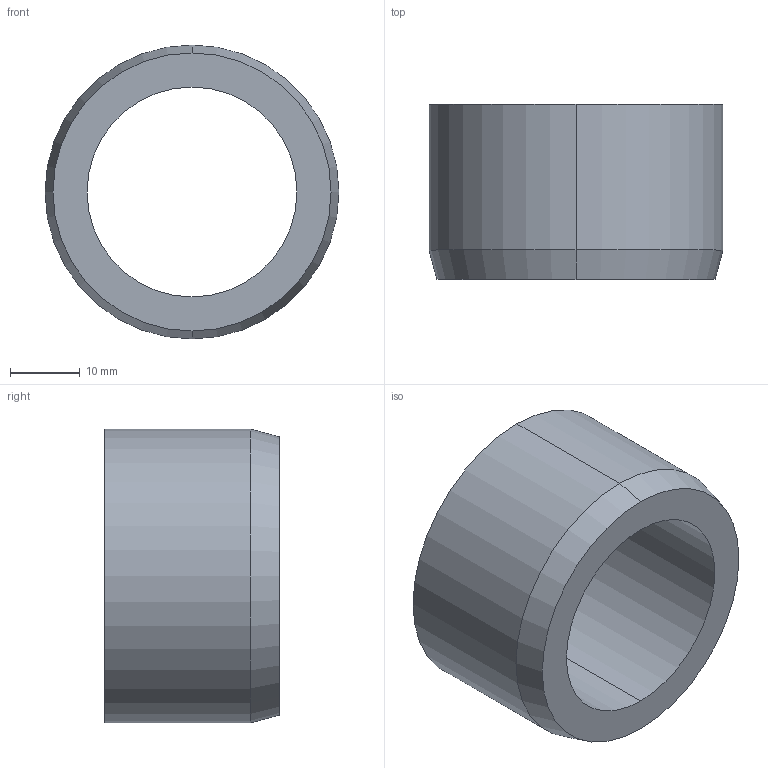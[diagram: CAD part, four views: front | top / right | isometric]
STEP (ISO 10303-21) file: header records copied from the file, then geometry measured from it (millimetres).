
FILE_DESCRIPTION (( 'STEP AP214' ), '1' );
FILE_NAME ('179-B30-25-A.step', '2024-10-17T06:09:02', ( '' ), ( '' ), 'SwSTEP 2.0', 'SolidWorks 2022', '' );
FILE_SCHEMA (( 'AUTOMOTIVE_DESIGN' ));
Length unit declared in the file: millimetre
Products named in the file (1): 179-B30-25-A
Bounding box: 42 x 25 x 42 mm (x, y, z)
Volume: 16611.8 mm3; surface area: 6812 mm2
Topology: 1 solids, 1 shells, 10 faces, 20 edges, 12 vertices
Faces by surface type: cylinder 4, cone 2, torus 2, plane 2
Entity records: 414 total; most frequent: DIRECTION 56, CARTESIAN_POINT 43, ORIENTED_EDGE 40, AXIS2_PLACEMENT_3D 25, EDGE_CURVE 20, CIRCLE 14, UNCERTAINTY_MEASURE_WITH_UNIT 13, SURFACE_STYLE_USAGE 12
